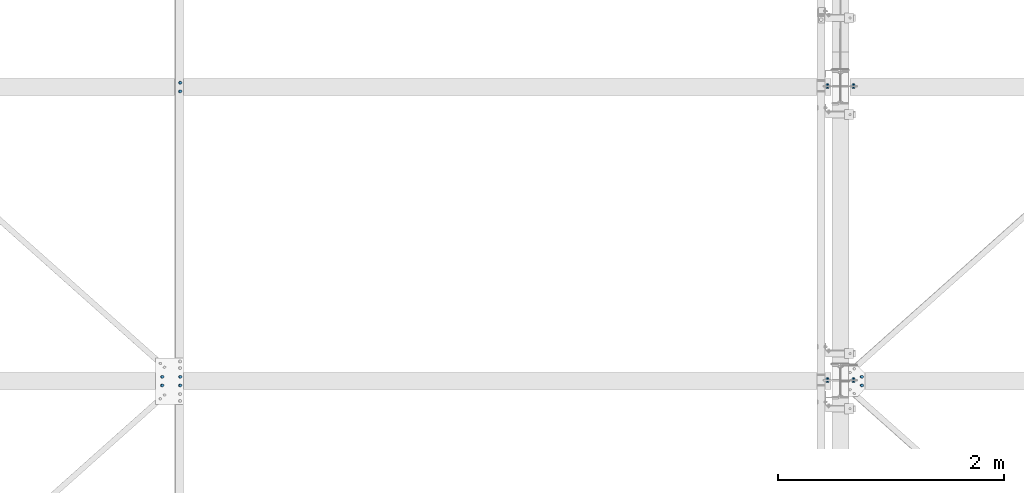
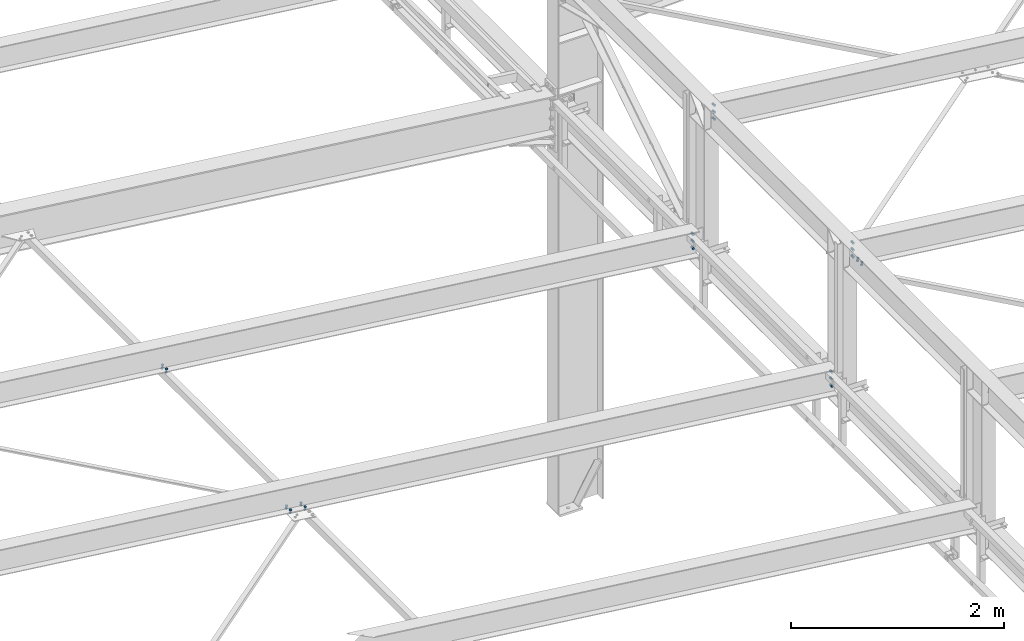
# One storey, part 248 of 3134: 7 mechanical fasteners, 5 elements without a shape of their own.
"""IFC2X3 building model written with IfcOpenShell, lengths in millimetres."""

from ifc_helpers import new_model, si_unit, frame, origin_with_axes, place, context, subcontext, project, spatial, faceted_brep, source, transform, mapped, material, type_object, element, aggregate, save


model = new_model("IFC2X3")

# Units and contexts
model_context = context("Model", 3, precision=1e-05, world=origin_with_axes())
body_context = subcontext(model_context, "Body", "Model", "MODEL_VIEW")
ifc_project = project(units=[si_unit("LENGTHUNIT", "METRE", prefix="MILLI"), si_unit("AREAUNIT", "SQUARE_METRE"), si_unit("VOLUMEUNIT", "CUBIC_METRE"), si_unit("MASSUNIT", "GRAM", prefix="KILO"), si_unit("TIMEUNIT", "SECOND"), si_unit("PLANEANGLEUNIT", "RADIAN"), si_unit("SOLIDANGLEUNIT", "STERADIAN"), si_unit("THERMODYNAMICTEMPERATUREUNIT", "DEGREE_CELSIUS"), si_unit("LUMINOUSINTENSITYUNIT", "LUMEN")], contexts=[model_context])

# Site, building, storey
site_placement = place(None, origin_with_axes())
site = spatial("IfcSite", under=ifc_project, at=site_placement, CompositionType="ELEMENT")
building_placement = place(site_placement, origin_with_axes())
building = spatial("IfcBuilding", under=site, at=building_placement, Name="Undefined", CompositionType="ELEMENT")
storey_placement = place(building_placement, origin_with_axes())
storey = spatial("IfcBuildingStorey", under=building, at=storey_placement, Name="Undefined", CompositionType="ELEMENT", Elevation=0.0)

# Assembly, mechanical fastener
assembly_1_placement = place(storey_placement, origin_with_axes())
assembly_1 = element("IfcElementAssembly", 1, at=assembly_1_placement, inside=storey, Name="300", AssemblyPlace="NOTDEFINED", PredefinedType="RIGID_FRAME")
ifc_material = material(Name="8.8")
mechanical_fastener_type = type_object("IfcMechanicalFastenerType", Name="Bolt assembly")
shared_shape_1 = source(origin_with_axes(), body_context, "Body", "Brep", [
    faceted_brep([(13.856406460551, -19.199990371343, 0.0), (6.92820323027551, -19.199990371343, 12.0), (-6.92820323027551, -19.199990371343, 12.0), (-13.856406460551, -19.199990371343, 1.69692038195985e-15), (-6.92820323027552, -19.199990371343, -12.0), (6.9282032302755, -19.199990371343, -12.0), (6.9282032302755, -9.19999037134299, -12.0), (-6.92820323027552, -9.19999037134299, -12.0), (-13.856406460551, -9.19999037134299, 1.69692038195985e-15), (-6.92820323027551, -9.19999037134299, 12.0), (6.92820323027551, -9.19999037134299, 12.0), (13.856406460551, -9.19999037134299, 0.0), (8.0, -9.19999037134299, 0.0), (6.92820323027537, -9.19999037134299, 4.00000000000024), (3.99999999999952, -9.19999037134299, 6.92820323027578), (-8.29068785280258e-13, -9.19999037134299, 8.0), (-4.00000000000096, -9.19999037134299, 6.92820323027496), (-6.9282032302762, -9.19999037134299, 3.99999999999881), (-8.0, -9.19999037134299, -1.65813757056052e-12), (-6.92820323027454, -9.19999037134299, -4.00000000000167), (-3.99999999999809, -9.19999037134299, -6.92820323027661), (2.47832457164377e-12, -9.19999037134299, -8.0), (4.00000000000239, -9.19999037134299, -6.92820323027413), (6.92820323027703, -9.19999037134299, -3.99999999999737), (6.92820323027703, 25.800009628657, -3.99999999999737), (4.00000000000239, 25.800009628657, -6.92820323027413), (2.47832457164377e-12, 25.800009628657, -8.0), (-3.99999999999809, 25.800009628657, -6.92820323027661), (-6.92820323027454, 25.800009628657, -4.00000000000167), (-8.0, 25.800009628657, -1.65813757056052e-12), (-6.9282032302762, 25.800009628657, 3.99999999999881), (-4.00000000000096, 25.800009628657, 6.92820323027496), (-8.29068785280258e-13, 25.800009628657, 8.0), (3.99999999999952, 25.800009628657, 6.92820323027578), (6.92820323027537, 25.800009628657, 4.00000000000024), (8.0, 25.800009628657, 0.0), (13.856406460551, 8.00000637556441, 0.0), (6.92820323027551, 8.00000637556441, 12.0), (-6.92820323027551, 8.00000637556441, 12.0), (-13.856406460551, 8.00000637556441, 1.69692038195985e-15), (-6.92820323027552, 8.00000637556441, -12.0), (6.9282032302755, 8.00000637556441, -12.0), (6.9282032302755, 21.0000063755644, -12.0), (-6.92820323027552, 21.0000063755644, -12.0), (-13.856406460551, 21.0000063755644, 1.69692038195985e-15), (-6.92820323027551, 21.0000063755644, 12.0), (6.92820323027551, 21.0000063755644, 12.0), (13.856406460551, 21.0000063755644, 0.0)], [[[0, 1, 2, 3, 4, 5]], [[6, 7, 8, 9, 10, 11]], [[0, 11, 10, 1]], [[1, 10, 9, 2]], [[2, 9, 8, 3]], [[3, 8, 7, 4]], [[4, 7, 6, 5]], [[5, 6, 11, 0]], [[12, 13, 14, 15, 16, 17, 18, 19, 20, 21, 22, 23]], [[24, 25, 26, 27, 28, 29, 30, 31, 32, 33, 34, 35]], [[12, 35, 34, 13]], [[13, 34, 33, 14]], [[14, 33, 32, 15]], [[15, 32, 31, 16]], [[16, 31, 30, 17]], [[17, 30, 29, 18]], [[18, 29, 28, 19]], [[19, 28, 27, 20]], [[20, 27, 26, 21]], [[21, 26, 25, 22]], [[22, 25, 24, 23]], [[23, 24, 35, 12]], [[36, 37, 38, 39, 40, 41]], [[42, 43, 44, 45, 46, 47]], [[36, 47, 46, 37]], [[37, 46, 45, 38]], [[38, 45, 44, 39]], [[39, 44, 43, 40]], [[40, 43, 42, 41]], [[41, 42, 47, 36]]]),
    faceted_brep([(9.0, -0.1, 0.0), (7.79422863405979, -0.1, 4.50000000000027), (4.49999999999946, -0.1, 7.79422863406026), (-9.3270238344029e-13, -0.1, 9.0), (-4.50000000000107, -0.1, 7.79422863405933), (-7.79422863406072, -0.1, 4.49999999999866), (-9.0, -0.1, -1.86540476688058e-12), (-7.79422863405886, -0.1, -4.50000000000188), (-4.49999999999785, -0.1, -7.79422863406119), (2.78811514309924e-12, -0.1, -9.0), (4.50000000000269, -0.1, -7.7942286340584), (7.79422863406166, -0.1, -4.49999999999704), (7.79422863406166, 8.00000000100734, -4.49999999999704), (4.50000000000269, 8.00000000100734, -7.7942286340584), (2.78811514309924e-12, 8.00000000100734, -9.0), (-4.49999999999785, 8.00000000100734, -7.79422863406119), (-7.79422863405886, 8.00000000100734, -4.50000000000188), (-9.0, 8.00000000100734, -1.86540476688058e-12), (-7.79422863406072, 8.00000000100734, 4.49999999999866), (-4.50000000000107, 8.00000000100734, 7.79422863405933), (-9.3270238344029e-13, 8.00000000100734, 9.0), (4.49999999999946, 8.00000000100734, 7.79422863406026), (7.79422863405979, 8.00000000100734, 4.50000000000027), (9.0, 8.00000000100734, 0.0), (9.0, -9.09999037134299, 0.0), (7.79422863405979, -9.09999037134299, 4.50000000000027), (4.49999999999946, -9.09999037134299, 7.79422863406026), (-9.3270238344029e-13, -9.09999037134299, 9.0), (-4.50000000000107, -9.09999037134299, 7.79422863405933), (-7.79422863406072, -9.09999037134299, 4.49999999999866), (-9.0, -9.09999037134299, -1.86540476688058e-12), (-7.79422863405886, -9.09999037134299, -4.50000000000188), (-4.49999999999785, -9.09999037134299, -7.79422863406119), (2.78811514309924e-12, -9.09999037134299, -9.0), (4.50000000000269, -9.09999037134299, -7.7942286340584), (7.79422863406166, -9.09999037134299, -4.49999999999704), (7.79422863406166, 0.100000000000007, -4.49999999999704), (4.50000000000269, 0.100000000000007, -7.7942286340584), (2.78811514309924e-12, 0.100000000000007, -9.0), (-4.49999999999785, 0.100000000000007, -7.79422863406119), (-7.79422863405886, 0.100000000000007, -4.50000000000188), (-9.0, 0.100000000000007, -1.86540476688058e-12), (-7.79422863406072, 0.100000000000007, 4.49999999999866), (-4.50000000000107, 0.100000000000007, 7.79422863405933), (-9.3270238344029e-13, 0.100000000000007, 9.0), (4.49999999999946, 0.100000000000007, 7.79422863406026), (7.79422863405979, 0.100000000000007, 4.50000000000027), (9.0, 0.100000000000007, 0.0)], [[[0, 1, 2, 3, 4, 5, 6, 7, 8, 9, 10, 11]], [[12, 13, 14, 15, 16, 17, 18, 19, 20, 21, 22, 23]], [[0, 23, 22, 1]], [[1, 22, 21, 2]], [[2, 21, 20, 3]], [[3, 20, 19, 4]], [[4, 19, 18, 5]], [[5, 18, 17, 6]], [[6, 17, 16, 7]], [[7, 16, 15, 8]], [[8, 15, 14, 9]], [[9, 14, 13, 10]], [[10, 13, 12, 11]], [[11, 12, 23, 0]], [[24, 25, 26, 27, 28, 29, 30, 31, 32, 33, 34, 35]], [[36, 37, 38, 39, 40, 41, 42, 43, 44, 45, 46, 47]], [[24, 47, 46, 25]], [[25, 46, 45, 26]], [[26, 45, 44, 27]], [[27, 44, 43, 28]], [[28, 43, 42, 29]], [[29, 42, 41, 30]], [[30, 41, 40, 31]], [[31, 40, 39, 32]], [[32, 39, 38, 33]], [[33, 38, 37, 34]], [[34, 37, 36, 35]], [[35, 36, 47, 24]]]),
])
mechanical_fastener_1_placement = place(assembly_1_placement, frame((38283.5751064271, 35012.0, 4816.43281405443), z_axis=(-0.992623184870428, 0.0, 0.121240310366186), x_axis=(0.0, 1.0, 0.0)))
mechanical_fastener_1 = element("IfcMechanicalFastener", 2, at=mechanical_fastener_1_placement, type_object=mechanical_fastener_type, material=ifc_material, Name="Bolt assembly", NominalDiameter=16.0, NominalLength=35.0, context=body_context, shape_type="MappedRepresentation", body=[
    mapped(shared_shape_1, transform((0.0, -5.32963895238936e-10, -79.9999999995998))),
    mapped(shared_shape_1, transform((76.0, -5.32963895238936e-10, -79.9999999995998))),
    mapped(shared_shape_1, transform((0.0, 5.3114490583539e-10, 79.9999999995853))),
    mapped(shared_shape_1, transform((76.0, 5.3114490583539e-10, 79.9999999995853))),
])

assembly_2_placement = place(storey_placement, origin_with_axes())
assembly_2 = element("IfcElementAssembly", 3, at=assembly_2_placement, inside=storey, Name="300", AssemblyPlace="NOTDEFINED", PredefinedType="RIGID_FRAME")
mechanical_fastener_2_placement = place(assembly_2_placement, frame((44389.2248161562, 35087.9995130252, 5496.68063428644), z_axis=(0.992623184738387, 1.63108538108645e-05, -0.12124031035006), x_axis=(1.62000016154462e-05, -0.999999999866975, -1.90000018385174e-06)))
mechanical_fastener_2 = element("IfcMechanicalFastener", 4, at=mechanical_fastener_2_placement, type_object=mechanical_fastener_type, material=ifc_material, Name="Bolt assembly", NominalDiameter=16.0, NominalLength=35.0, context=body_context, shape_type="MappedRepresentation", body=[
    mapped(shared_shape_1, transform((0.0, 0.0, 0.0))),
    mapped(shared_shape_1, transform((76.0, 0.0, 0.0))),
])

assembly_3_placement = place(storey_placement, origin_with_axes())
assembly_3 = element("IfcElementAssembly", 5, at=assembly_3_placement, inside=storey, Name="300", AssemblyPlace="NOTDEFINED", PredefinedType="RIGID_FRAME")
shared_shape_2 = source(origin_with_axes(), body_context, "Body", "Brep", [
    faceted_brep([(13.856406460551, -13.0499999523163, 0.0), (6.92820323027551, -13.0499999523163, 12.0), (-6.92820323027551, -13.0499999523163, 12.0), (-13.856406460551, -13.0499999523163, 1.69692038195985e-15), (-6.92820323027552, -13.0499999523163, -12.0), (6.9282032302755, -13.0499999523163, -12.0), (6.9282032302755, -3.04999995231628, -12.0), (-6.92820323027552, -3.04999995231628, -12.0), (-13.856406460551, -3.04999995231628, 1.69692038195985e-15), (-6.92820323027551, -3.04999995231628, 12.0), (6.92820323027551, -3.04999995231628, 12.0), (13.856406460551, -3.04999995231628, 0.0), (8.0, -3.04999995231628, 0.0), (6.92820323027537, -3.04999995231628, 4.00000000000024), (3.99999999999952, -3.04999995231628, 6.92820323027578), (-8.29068785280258e-13, -3.04999995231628, 8.0), (-4.00000000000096, -3.04999995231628, 6.92820323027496), (-6.9282032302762, -3.04999995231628, 3.99999999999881), (-8.0, -3.04999995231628, -1.65813757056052e-12), (-6.92820323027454, -3.04999995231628, -4.00000000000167), (-3.99999999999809, -3.04999995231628, -6.92820323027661), (2.47832457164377e-12, -3.04999995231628, -8.0), (4.00000000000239, -3.04999995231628, -6.92820323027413), (6.92820323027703, -3.04999995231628, -3.99999999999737), (6.92820323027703, 31.9500000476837, -3.99999999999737), (4.00000000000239, 31.9500000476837, -6.92820323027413), (2.47832457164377e-12, 31.9500000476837, -8.0), (-3.99999999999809, 31.9500000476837, -6.92820323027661), (-6.92820323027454, 31.9500000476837, -4.00000000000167), (-8.0, 31.9500000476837, -1.65813757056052e-12), (-6.9282032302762, 31.9500000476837, 3.99999999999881), (-4.00000000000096, 31.9500000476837, 6.92820323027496), (-8.29068785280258e-13, 31.9500000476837, 8.0), (3.99999999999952, 31.9500000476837, 6.92820323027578), (6.92820323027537, 31.9500000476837, 4.00000000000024), (8.0, 31.9500000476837, 0.0), (13.856406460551, 13.0500000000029, 0.0), (6.92820323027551, 13.0500000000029, 12.0), (-6.92820323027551, 13.0500000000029, 12.0), (-13.856406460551, 13.0500000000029, 1.69692038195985e-15), (-6.92820323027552, 13.0500000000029, -12.0), (6.9282032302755, 13.0500000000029, -12.0), (6.9282032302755, 26.0500000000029, -12.0), (-6.92820323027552, 26.0500000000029, -12.0), (-13.856406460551, 26.0500000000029, 1.69692038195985e-15), (-6.92820323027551, 26.0500000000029, 12.0), (6.92820323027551, 26.0500000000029, 12.0), (13.856406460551, 26.0500000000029, 0.0)], [[[0, 1, 2, 3, 4, 5]], [[6, 7, 8, 9, 10, 11]], [[0, 11, 10, 1]], [[1, 10, 9, 2]], [[2, 9, 8, 3]], [[3, 8, 7, 4]], [[4, 7, 6, 5]], [[5, 6, 11, 0]], [[12, 13, 14, 15, 16, 17, 18, 19, 20, 21, 22, 23]], [[24, 25, 26, 27, 28, 29, 30, 31, 32, 33, 34, 35]], [[12, 35, 34, 13]], [[13, 34, 33, 14]], [[14, 33, 32, 15]], [[15, 32, 31, 16]], [[16, 31, 30, 17]], [[17, 30, 29, 18]], [[18, 29, 28, 19]], [[19, 28, 27, 20]], [[20, 27, 26, 21]], [[21, 26, 25, 22]], [[22, 25, 24, 23]], [[23, 24, 35, 12]], [[36, 37, 38, 39, 40, 41]], [[42, 43, 44, 45, 46, 47]], [[36, 47, 46, 37]], [[37, 46, 45, 38]], [[38, 45, 44, 39]], [[39, 44, 43, 40]], [[40, 43, 42, 41]], [[41, 42, 47, 36]]]),
    faceted_brep([(9.0, 2.95000000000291, 0.0), (7.79422863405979, 2.95000000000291, 4.50000000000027), (4.49999999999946, 2.95000000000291, 7.79422863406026), (-9.3270238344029e-13, 2.95000000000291, 9.0), (-4.50000000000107, 2.95000000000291, 7.79422863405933), (-7.79422863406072, 2.95000000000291, 4.49999999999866), (-9.0, 2.95000000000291, -1.86540476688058e-12), (-7.79422863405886, 2.95000000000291, -4.50000000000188), (-4.49999999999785, 2.95000000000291, -7.79422863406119), (2.78811514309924e-12, 2.95000000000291, -9.0), (4.50000000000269, 2.95000000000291, -7.7942286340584), (7.79422863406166, 2.95000000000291, -4.49999999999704), (7.79422863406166, 13.0500000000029, -4.49999999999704), (4.50000000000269, 13.0500000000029, -7.7942286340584), (2.78811514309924e-12, 13.0500000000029, -9.0), (-4.49999999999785, 13.0500000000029, -7.79422863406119), (-7.79422863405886, 13.0500000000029, -4.50000000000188), (-9.0, 13.0500000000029, -1.86540476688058e-12), (-7.79422863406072, 13.0500000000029, 4.49999999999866), (-4.50000000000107, 13.0500000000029, 7.79422863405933), (-9.3270238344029e-13, 13.0500000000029, 9.0), (4.49999999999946, 13.0500000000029, 7.79422863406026), (7.79422863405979, 13.0500000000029, 4.50000000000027), (9.0, 13.0500000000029, 0.0), (9.0, -2.94999995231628, 0.0), (7.79422863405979, -2.94999995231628, 4.50000000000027), (4.49999999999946, -2.94999995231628, 7.79422863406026), (-9.3270238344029e-13, -2.94999995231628, 9.0), (-4.50000000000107, -2.94999995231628, 7.79422863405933), (-7.79422863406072, -2.94999995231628, 4.49999999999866), (-9.0, -2.94999995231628, -1.86540476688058e-12), (-7.79422863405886, -2.94999995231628, -4.50000000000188), (-4.49999999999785, -2.94999995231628, -7.79422863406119), (2.78811514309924e-12, -2.94999995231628, -9.0), (4.50000000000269, -2.94999995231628, -7.7942286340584), (7.79422863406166, -2.94999995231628, -4.49999999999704), (7.79422863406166, 3.14999995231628, -4.49999999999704), (4.50000000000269, 3.14999995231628, -7.7942286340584), (2.78811514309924e-12, 3.14999995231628, -9.0), (-4.49999999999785, 3.14999995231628, -7.79422863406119), (-7.79422863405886, 3.14999995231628, -4.50000000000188), (-9.0, 3.14999995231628, -1.86540476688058e-12), (-7.79422863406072, 3.14999995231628, 4.49999999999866), (-4.50000000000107, 3.14999995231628, 7.79422863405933), (-9.3270238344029e-13, 3.14999995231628, 9.0), (4.49999999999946, 3.14999995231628, 7.79422863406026), (7.79422863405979, 3.14999995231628, 4.50000000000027), (9.0, 3.14999995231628, 0.0)], [[[0, 1, 2, 3, 4, 5, 6, 7, 8, 9, 10, 11]], [[12, 13, 14, 15, 16, 17, 18, 19, 20, 21, 22, 23]], [[0, 23, 22, 1]], [[1, 22, 21, 2]], [[2, 21, 20, 3]], [[3, 20, 19, 4]], [[4, 19, 18, 5]], [[5, 18, 17, 6]], [[6, 17, 16, 7]], [[7, 16, 15, 8]], [[8, 15, 14, 9]], [[9, 14, 13, 10]], [[10, 13, 12, 11]], [[11, 12, 23, 0]], [[24, 25, 26, 27, 28, 29, 30, 31, 32, 33, 34, 35]], [[36, 37, 38, 39, 40, 41, 42, 43, 44, 45, 46, 47]], [[24, 47, 46, 25]], [[25, 46, 45, 26]], [[26, 45, 44, 27]], [[27, 44, 43, 28]], [[28, 43, 42, 29]], [[29, 42, 41, 30]], [[30, 41, 40, 31]], [[31, 40, 39, 32]], [[32, 39, 38, 33]], [[33, 38, 37, 34]], [[34, 37, 36, 35]], [[35, 36, 47, 24]]]),
])
mechanical_fastener_3_placement = place(assembly_3_placement, frame((44085.0, 37650.0, 4337.44269270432), z_axis=(1.0, 0.0, 0.0), x_axis=(0.0, 0.0, -1.0)))
mechanical_fastener_3 = element("IfcMechanicalFastener", 6, at=mechanical_fastener_3_placement, type_object=mechanical_fastener_type, material=ifc_material, Name="Bolt assembly", NominalDiameter=16.0, NominalLength=35.0, context=body_context, shape_type="MappedRepresentation", body=[
    mapped(shared_shape_2, transform((0.0, 0.0, 0.0))),
    mapped(shared_shape_2, transform((80.0, 0.0, 0.0))),
    mapped(shared_shape_2, transform((160.0, 0.0, 0.0))),
])
aggregate(assembly_3, [mechanical_fastener_3])

# Mechanical fastener
mechanical_fastener_4_placement = place(assembly_1_placement, frame((44085.0, 35050.0, 4337.44269270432), z_axis=(1.0, 0.0, 0.0), x_axis=(0.0, 0.0, -1.0)))
mechanical_fastener_4 = element("IfcMechanicalFastener", 7, at=mechanical_fastener_4_placement, type_object=mechanical_fastener_type, material=ifc_material, Name="Bolt assembly", NominalDiameter=16.0, NominalLength=35.0, context=body_context, shape_type="MappedRepresentation", body=[
    mapped(shared_shape_2, transform((0.0, 0.0, 0.0))),
    mapped(shared_shape_2, transform((80.0, 0.0, 0.0))),
    mapped(shared_shape_2, transform((160.0, 0.0, 0.0))),
])

aggregate(assembly_1, [mechanical_fastener_4, mechanical_fastener_1])

mechanical_fastener_5_placement = place(assembly_2_placement, frame((44315.0, 35050.0, 5735.35014950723), z_axis=(1.0, 0.0, 0.0), x_axis=(0.0, 0.0, -1.0)))
mechanical_fastener_5 = element("IfcMechanicalFastener", 8, at=mechanical_fastener_5_placement, type_object=mechanical_fastener_type, material=ifc_material, Name="Bolt assembly", NominalDiameter=16.0, NominalLength=35.0, context=body_context, shape_type="MappedRepresentation", body=[
    mapped(shared_shape_2, transform((0.0, 0.0, 0.0))),
    mapped(shared_shape_2, transform((80.0, 0.0, 0.0))),
    mapped(shared_shape_2, transform((160.0, 0.0, 0.0))),
])

aggregate(assembly_2, [mechanical_fastener_5, mechanical_fastener_2])

# Assembly, mechanical fastener
assembly_4_placement = place(storey_placement, origin_with_axes())
assembly_4 = element("IfcElementAssembly", 9, at=assembly_4_placement, inside=storey, Name="300", AssemblyPlace="NOTDEFINED", PredefinedType="RIGID_FRAME")
mechanical_fastener_6_placement = place(assembly_4_placement, frame((44315.0, 37650.0, 5735.35014950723), z_axis=(1.0, 0.0, 0.0), x_axis=(0.0, 0.0, -1.0)))
mechanical_fastener_6 = element("IfcMechanicalFastener", 10, at=mechanical_fastener_6_placement, type_object=mechanical_fastener_type, material=ifc_material, Name="Bolt assembly", NominalDiameter=16.0, NominalLength=35.0, context=body_context, shape_type="MappedRepresentation", body=[
    mapped(shared_shape_2, transform((0.0, 0.0, 0.0))),
    mapped(shared_shape_2, transform((80.0, 0.0, 0.0))),
    mapped(shared_shape_2, transform((160.0, 0.0, 0.0))),
])
aggregate(assembly_4, [mechanical_fastener_6])

assembly_5_placement = place(storey_placement, origin_with_axes())
assembly_5 = element("IfcElementAssembly", 11, at=assembly_5_placement, inside=storey, AssemblyPlace="NOTDEFINED", PredefinedType="RIGID_FRAME")
shared_shape_3 = source(origin_with_axes(), body_context, "Body", "Brep", [
    faceted_brep([(13.856406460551, -19.199990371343, 0.0), (6.92820323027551, -19.199990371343, 12.0), (-6.92820323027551, -19.199990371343, 12.0), (-13.856406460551, -19.199990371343, 1.69692038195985e-15), (-6.92820323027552, -19.199990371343, -12.0), (6.9282032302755, -19.199990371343, -12.0), (6.9282032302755, -9.19999037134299, -12.0), (-6.92820323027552, -9.19999037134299, -12.0), (-13.856406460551, -9.19999037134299, 1.69692038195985e-15), (-6.92820323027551, -9.19999037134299, 12.0), (6.92820323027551, -9.19999037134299, 12.0), (13.856406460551, -9.19999037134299, 0.0), (8.0, -9.19999037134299, 0.0), (6.92820323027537, -9.19999037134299, 4.00000000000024), (3.99999999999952, -9.19999037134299, 6.92820323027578), (-8.29068785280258e-13, -9.19999037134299, 8.0), (-4.00000000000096, -9.19999037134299, 6.92820323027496), (-6.9282032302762, -9.19999037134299, 3.99999999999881), (-8.0, -9.19999037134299, -1.65813757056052e-12), (-6.92820323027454, -9.19999037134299, -4.00000000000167), (-3.99999999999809, -9.19999037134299, -6.92820323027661), (2.47832457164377e-12, -9.19999037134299, -8.0), (4.00000000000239, -9.19999037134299, -6.92820323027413), (6.92820323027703, -9.19999037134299, -3.99999999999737), (6.92820323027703, 35.8000002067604, -3.99999999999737), (4.00000000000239, 35.8000002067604, -6.92820323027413), (2.47832457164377e-12, 35.8000002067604, -8.0), (-3.99999999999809, 35.8000002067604, -6.92820323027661), (-6.92820323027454, 35.8000002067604, -4.00000000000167), (-8.0, 35.8000002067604, -1.65813757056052e-12), (-6.9282032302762, 35.8000002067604, 3.99999999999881), (-4.00000000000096, 35.8000002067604, 6.92820323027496), (-8.29068785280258e-13, 35.8000002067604, 8.0), (3.99999999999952, 35.8000002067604, 6.92820323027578), (6.92820323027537, 35.8000002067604, 4.00000000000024), (8.0, 35.8000002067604, 0.0), (13.856406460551, 14.9990000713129, 0.0), (6.92820323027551, 14.9990000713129, 12.0), (-6.92820323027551, 14.9990000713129, 12.0), (-13.856406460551, 14.9990000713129, 1.69692038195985e-15), (-6.92820323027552, 14.9990000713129, -12.0), (6.9282032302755, 14.9990000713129, -12.0), (6.9282032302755, 27.9990000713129, -12.0), (-6.92820323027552, 27.9990000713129, -12.0), (-13.856406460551, 27.9990000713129, 1.69692038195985e-15), (-6.92820323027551, 27.9990000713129, 12.0), (6.92820323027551, 27.9990000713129, 12.0), (13.856406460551, 27.9990000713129, 0.0)], [[[0, 1, 2, 3, 4, 5]], [[6, 7, 8, 9, 10, 11]], [[0, 11, 10, 1]], [[1, 10, 9, 2]], [[2, 9, 8, 3]], [[3, 8, 7, 4]], [[4, 7, 6, 5]], [[5, 6, 11, 0]], [[12, 13, 14, 15, 16, 17, 18, 19, 20, 21, 22, 23]], [[24, 25, 26, 27, 28, 29, 30, 31, 32, 33, 34, 35]], [[12, 35, 34, 13]], [[13, 34, 33, 14]], [[14, 33, 32, 15]], [[15, 32, 31, 16]], [[16, 31, 30, 17]], [[17, 30, 29, 18]], [[18, 29, 28, 19]], [[19, 28, 27, 20]], [[20, 27, 26, 21]], [[21, 26, 25, 22]], [[22, 25, 24, 23]], [[23, 24, 35, 12]], [[36, 37, 38, 39, 40, 41]], [[42, 43, 44, 45, 46, 47]], [[36, 47, 46, 37]], [[37, 46, 45, 38]], [[38, 45, 44, 39]], [[39, 44, 43, 40]], [[40, 43, 42, 41]], [[41, 42, 47, 36]]]),
    faceted_brep([(9.0, -9.09999037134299, 0.0), (7.79422863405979, -9.09999037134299, 4.50000000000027), (4.49999999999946, -9.09999037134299, 7.79422863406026), (-9.3270238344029e-13, -9.09999037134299, 9.0), (-4.50000000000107, -9.09999037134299, 7.79422863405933), (-7.79422863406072, -9.09999037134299, 4.49999999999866), (-9.0, -9.09999037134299, -1.86540476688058e-12), (-7.79422863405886, -9.09999037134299, -4.50000000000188), (-4.49999999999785, -9.09999037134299, -7.79422863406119), (2.78811514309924e-12, -9.09999037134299, -9.0), (4.50000000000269, -9.09999037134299, -7.7942286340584), (7.79422863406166, -9.09999037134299, -4.49999999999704), (7.79422863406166, 0.100000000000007, -4.49999999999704), (4.50000000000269, 0.100000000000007, -7.7942286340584), (2.78811514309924e-12, 0.100000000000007, -9.0), (-4.49999999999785, 0.100000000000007, -7.79422863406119), (-7.79422863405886, 0.100000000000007, -4.50000000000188), (-9.0, 0.100000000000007, -1.86540476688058e-12), (-7.79422863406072, 0.100000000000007, 4.49999999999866), (-4.50000000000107, 0.100000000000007, 7.79422863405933), (-9.3270238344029e-13, 0.100000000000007, 9.0), (4.49999999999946, 0.100000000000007, 7.79422863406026), (7.79422863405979, 0.100000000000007, 4.50000000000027), (9.0, 0.100000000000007, 0.0), (9.0, 7.89900007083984, 0.0), (7.79422863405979, 7.89900007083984, 4.50000000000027), (4.49999999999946, 7.89900007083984, 7.79422863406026), (-9.3270238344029e-13, 7.89900007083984, 9.0), (-4.50000000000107, 7.89900007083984, 7.79422863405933), (-7.79422863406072, 7.89900007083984, 4.49999999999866), (-9.0, 7.89900007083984, -1.86540476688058e-12), (-7.79422863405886, 7.89900007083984, -4.50000000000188), (-4.49999999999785, 7.89900007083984, -7.79422863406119), (2.78811514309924e-12, 7.89900007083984, -9.0), (4.50000000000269, 7.89900007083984, -7.7942286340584), (7.79422863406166, 7.89900007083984, -4.49999999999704), (7.79422863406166, 14.9990000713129, -4.49999999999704), (4.50000000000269, 14.9990000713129, -7.7942286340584), (2.78811514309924e-12, 14.9990000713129, -9.0), (-4.49999999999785, 14.9990000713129, -7.79422863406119), (-7.79422863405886, 14.9990000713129, -4.50000000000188), (-9.0, 14.9990000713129, -1.86540476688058e-12), (-7.79422863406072, 14.9990000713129, 4.49999999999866), (-4.50000000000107, 14.9990000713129, 7.79422863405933), (-9.3270238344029e-13, 14.9990000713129, 9.0), (4.49999999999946, 14.9990000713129, 7.79422863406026), (7.79422863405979, 14.9990000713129, 4.50000000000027), (9.0, 14.9990000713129, 0.0)], [[[0, 1, 2, 3, 4, 5, 6, 7, 8, 9, 10, 11]], [[12, 13, 14, 15, 16, 17, 18, 19, 20, 21, 22, 23]], [[0, 23, 22, 1]], [[1, 22, 21, 2]], [[2, 21, 20, 3]], [[3, 20, 19, 4]], [[4, 19, 18, 5]], [[5, 18, 17, 6]], [[6, 17, 16, 7]], [[7, 16, 15, 8]], [[8, 15, 14, 9]], [[9, 14, 13, 10]], [[10, 13, 12, 11]], [[11, 12, 23, 0]], [[24, 25, 26, 27, 28, 29, 30, 31, 32, 33, 34, 35]], [[36, 37, 38, 39, 40, 41, 42, 43, 44, 45, 46, 47]], [[24, 47, 46, 25]], [[25, 46, 45, 26]], [[26, 45, 44, 27]], [[27, 44, 43, 28]], [[28, 43, 42, 29]], [[29, 42, 41, 30]], [[30, 41, 40, 31]], [[31, 40, 39, 32]], [[32, 39, 38, 33]], [[33, 38, 37, 34]], [[34, 37, 36, 35]], [[35, 36, 47, 24]]]),
])
mechanical_fastener_7_placement = place(assembly_5_placement, frame((38362.9849612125, 37612.0, 4806.73358922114), z_axis=(-0.992623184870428, 0.0, 0.121240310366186), x_axis=(0.0, 1.0, 0.0)))
mechanical_fastener_7 = element("IfcMechanicalFastener", 12, at=mechanical_fastener_7_placement, type_object=mechanical_fastener_type, material=ifc_material, Name="Bolt assembly", NominalDiameter=16.0, NominalLength=45.0, context=body_context, shape_type="MappedRepresentation", body=[
    mapped(shared_shape_3, transform((0.0, 0.0, 0.0))),
    mapped(shared_shape_3, transform((76.0, 0.0, 0.0))),
])
aggregate(assembly_5, [mechanical_fastener_7])

save(model, "model.ifc")
